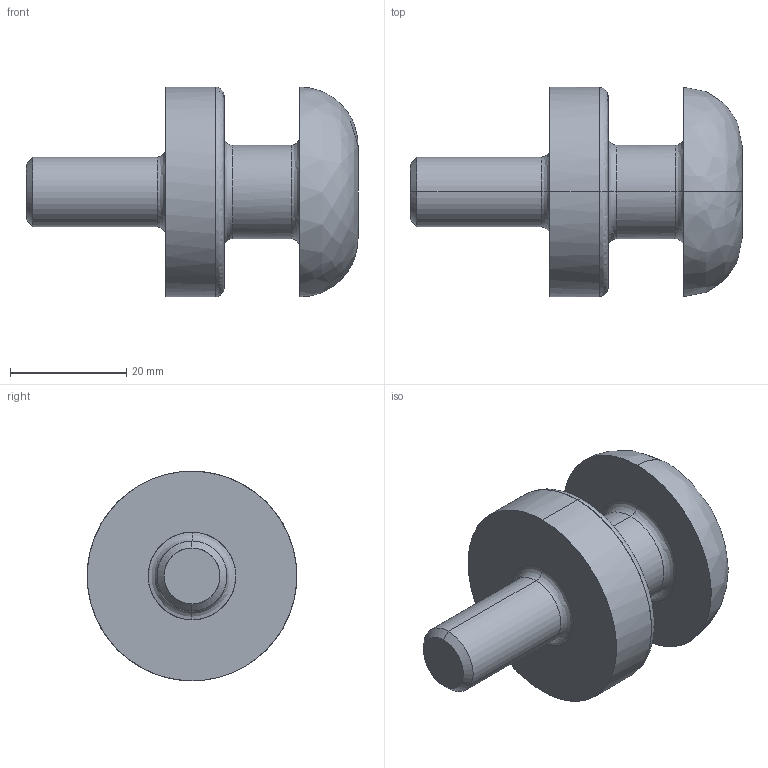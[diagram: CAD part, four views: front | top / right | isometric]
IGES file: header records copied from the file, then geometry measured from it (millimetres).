
Global section: file name: E:\UnigraphicsGraphicData\MISUMI_PRESS-PARTS\IGES\3d_chn12_03538_r00.igs; native system: NX V5.0; preprocessor: UGS NX IGES V5.0; author: MISUMI; date: 20110105.160220; units: millimetre
Bounding box: 57 x 36 x 36 mm (x, y, z)
Surface area: 6980 mm2 (no closed solid volume)
Topology: 0 solids, 0 shells, 30 faces, 196 edges, 196 vertices
Faces by surface type: bspline 30
